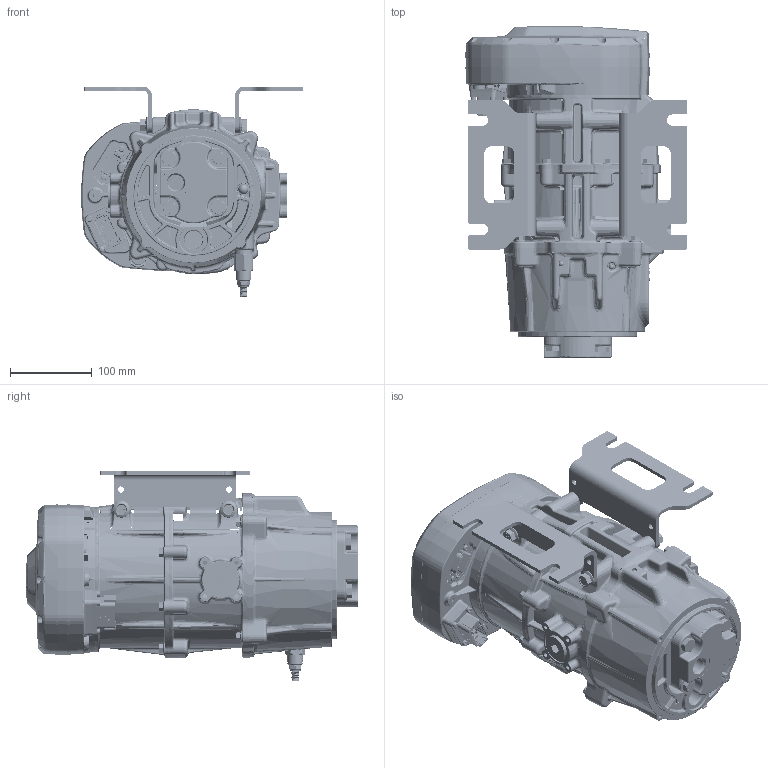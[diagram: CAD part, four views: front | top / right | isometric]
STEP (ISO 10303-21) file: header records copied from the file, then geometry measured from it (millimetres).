
FILE_DESCRIPTION (( 'STEP AP214' ), '1' );
FILE_NAME ('EHSU-2-105-350-U-7.STEP', '2021-12-08T18:42:50', ( '' ), ( '' ), 'SwSTEP 2.0', 'SolidWorks 2019', '' );
FILE_SCHEMA (( 'AUTOMOTIVE_DESIGN' ));
Length unit declared in the file: inch
Products named in the file (1): EHSU-2-105-350-U-7
Bounding box: 270.48 x 405.15 x 257.22 mm (x, y, z)
Surface area: 523616.8 mm2 (no closed solid volume)
Topology: 0 solids, 112 shells, 3974 faces, 13685 edges, 9454 vertices
Faces by surface type: bspline 1345, plane 797, cylinder 763, torus 549, cone 439, sphere 81
Entity records: 263363 total; most frequent: CARTESIAN_POINT 109475, ORIENTED_EDGE 21691, DIRECTION 18780, EDGE_CURVE 13613, VERTEX_POINT 9444, AXIS2_PLACEMENT_3D 7465, CIRCLE 4835, B_SPLINE_CURVE_WITH_KNOTS 4513
